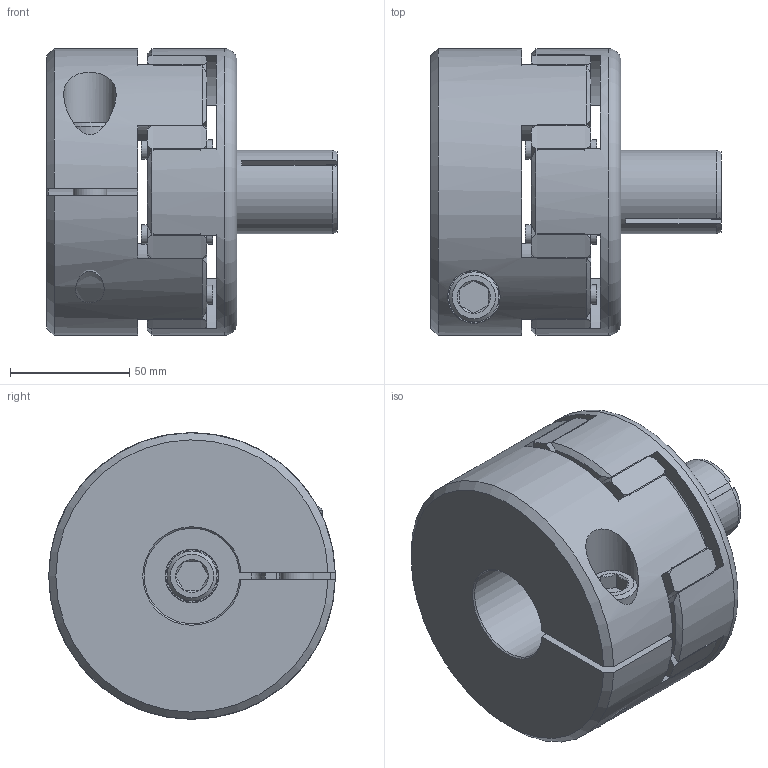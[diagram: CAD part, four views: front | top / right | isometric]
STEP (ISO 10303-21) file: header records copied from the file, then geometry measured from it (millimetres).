
FILE_DESCRIPTION(/* description */ ('STEP AP214'),/* implementation_level */ '2;1');
FILE_NAME(/* name */ 'EKS 600 - D1=40 D2=35',/* time_stamp */ '2026-10-28T12:29:13+01:00',/* author */ ('License CC BY-ND 4.0'),/* organization */ ('CADENAS'),/* preprocessor_version */ 'ST-DEVELOPER v20',/* originating_system */ 'PARTsolutions',/* authorisation */ ' ');
FILE_SCHEMA (('AUTOMOTIVE_DESIGN {1 0 10303 214 3 1 1}'));
Length unit declared in the file: millimetre
Products named in the file (5): EKS 600 - D1=40 D2=35; EKS 600 - D1=40_1_part1; 700; EKS 600 - D2=35_part2; Cylinder screw ISO 4762 M14x40
Assembly tree (5 placements, depth 2):
  EKS 600 - D1=40 D2=35
    EKS 600 - D1=40_1_part1
    700
    EKS 600 - D2=35_part2
    Cylinder screw ISO 4762 M14x40  x2
Bounding box: 121.5 x 120 x 120 mm (x, y, z)
Volume: 747102.6 mm3; surface area: 137638.4 mm2
Topology: 5 solids, 5 shells, 248 faces, 584 edges, 362 vertices
Faces by surface type: cone 96, cylinder 86, plane 59, torus 7
Full cylindrical faces by diameter (mm): 8 x8, 11.85 x1, 12 x1, 14 x2, 14.5 x2, 21 x2, 22 x2, 22.5 x1, 35 x1, 58 x2, 120 x1
Entity records: 7171 total; most frequent: CARTESIAN_POINT 1496, DIRECTION 1120, ORIENTED_EDGE 1010, AXIS2_PLACEMENT_3D 506, EDGE_CURVE 505, VERTEX_POINT 337, EDGE_LOOP 282, FACE_BOUND 282
